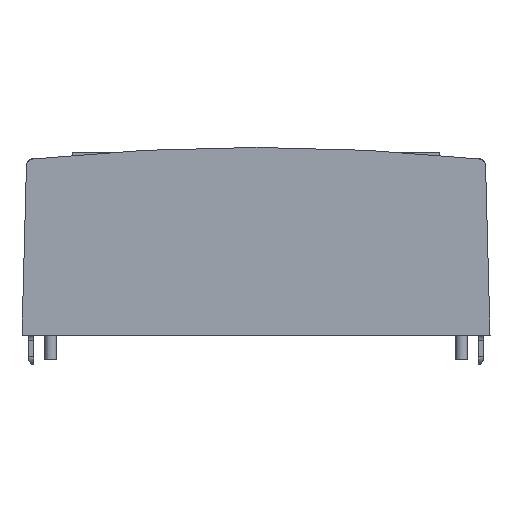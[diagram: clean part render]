
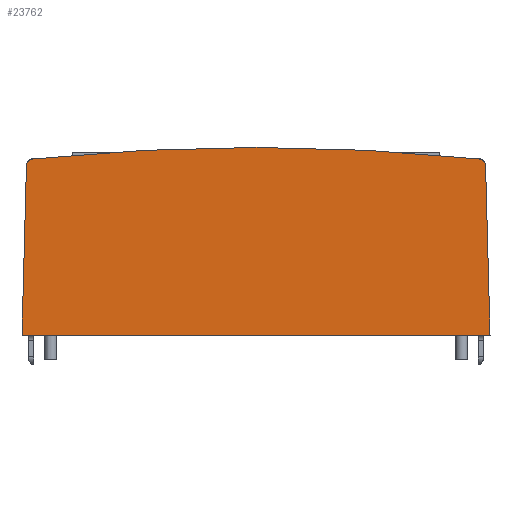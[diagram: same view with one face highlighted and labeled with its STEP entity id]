
A CAD part, left-side view. The second image highlights one B-rep face of the part: STEP entity #23762.
In plain terms, the highlighted planar face has unit normal (-1, 0, 0).
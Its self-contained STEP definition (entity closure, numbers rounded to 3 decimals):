
#700=CIRCLE('',#25277,2.);
#704=CIRCLE('',#25284,2.);
#705=CIRCLE('',#25287,550.);
#2621=FACE_OUTER_BOUND('',#3954,.T.);
#3954=EDGE_LOOP('',(#19374,#19375,#19376,#19377,#19378,#19379));
#5858=LINE('',#39071,#8121);
#5863=LINE('',#39088,#8126);
#5865=LINE('',#39093,#8128);
#8121=VECTOR('',#29427,42.859);
#8126=VECTOR('',#29444,42.859);
#8128=VECTOR('',#29452,119.);
#10545=VERTEX_POINT('',#39058);
#10546=VERTEX_POINT('',#39059);
#10550=VERTEX_POINT('',#39069);
#10554=VERTEX_POINT('',#39081);
#10555=VERTEX_POINT('',#39082);
#10556=VERTEX_POINT('',#39087);
#13584=EDGE_CURVE('',#10545,#10546,#700,.T.);
#13590=EDGE_CURVE('',#10550,#10545,#5858,.T.);
#13595=EDGE_CURVE('',#10554,#10555,#704,.T.);
#13598=EDGE_CURVE('',#10555,#10556,#5863,.T.);
#13600=EDGE_CURVE('',#10546,#10554,#705,.T.);
#13601=EDGE_CURVE('',#10556,#10550,#5865,.T.);
#19374=ORIENTED_EDGE('',*,*,#13584,.F.);
#19375=ORIENTED_EDGE('',*,*,#13590,.F.);
#19376=ORIENTED_EDGE('',*,*,#13601,.F.);
#19377=ORIENTED_EDGE('',*,*,#13598,.F.);
#19378=ORIENTED_EDGE('',*,*,#13595,.F.);
#19379=ORIENTED_EDGE('',*,*,#13600,.F.);
#21498=PLANE('',#25289);
#23762=ADVANCED_FACE('',(#2621),#21498,.T.);
#25277=AXIS2_PLACEMENT_3D('',#39060,#29417,#29418);
#25284=AXIS2_PLACEMENT_3D('',#39083,#29438,#29439);
#25287=AXIS2_PLACEMENT_3D('',#39091,#29448,#29449);
#25289=AXIS2_PLACEMENT_3D('',#39094,#29453,#29454);
#29417=DIRECTION('center_axis',(1.,0.,0.));
#29418=DIRECTION('ref_axis',(0.,0.734,0.679));
#29427=DIRECTION('',(0.,-0.026,1.));
#29438=DIRECTION('center_axis',(1.,0.,0.));
#29439=DIRECTION('ref_axis',(0.,-0.734,0.679));
#29444=DIRECTION('',(0.,-0.026,-1.));
#29448=DIRECTION('center_axis',(1.,0.,0.));
#29449=DIRECTION('ref_axis',(0.,-0.106,0.994));
#29452=DIRECTION('',(0.,1.,0.));
#29453=DIRECTION('center_axis',(-1.,0.,0.));
#29454=DIRECTION('ref_axis',(0.,0.,1.));
#39058=CARTESIAN_POINT('',(-27.429,57.761,24.095));
#39059=CARTESIAN_POINT('',(-27.429,55.968,26.032));
#39060=CARTESIAN_POINT('Origin',(-27.429,55.762,24.043));
#39069=CARTESIAN_POINT('',(-27.429,58.883,-18.749));
#39071=CARTESIAN_POINT('',(-27.429,57.715,25.849));
#39081=CARTESIAN_POINT('',(-27.429,-57.201,26.032));
#39082=CARTESIAN_POINT('',(-27.429,-58.995,24.095));
#39083=CARTESIAN_POINT('Origin',(-27.429,-56.996,24.043));
#39087=CARTESIAN_POINT('',(-27.429,-60.117,-18.749));
#39088=CARTESIAN_POINT('',(-27.429,-60.117,-18.749));
#39091=CARTESIAN_POINT('Origin',(-27.429,-0.617,-521.049));
#39093=CARTESIAN_POINT('',(-27.429,58.883,-18.749));
#39094=CARTESIAN_POINT('Origin',(-27.429,-0.617,4.074));
